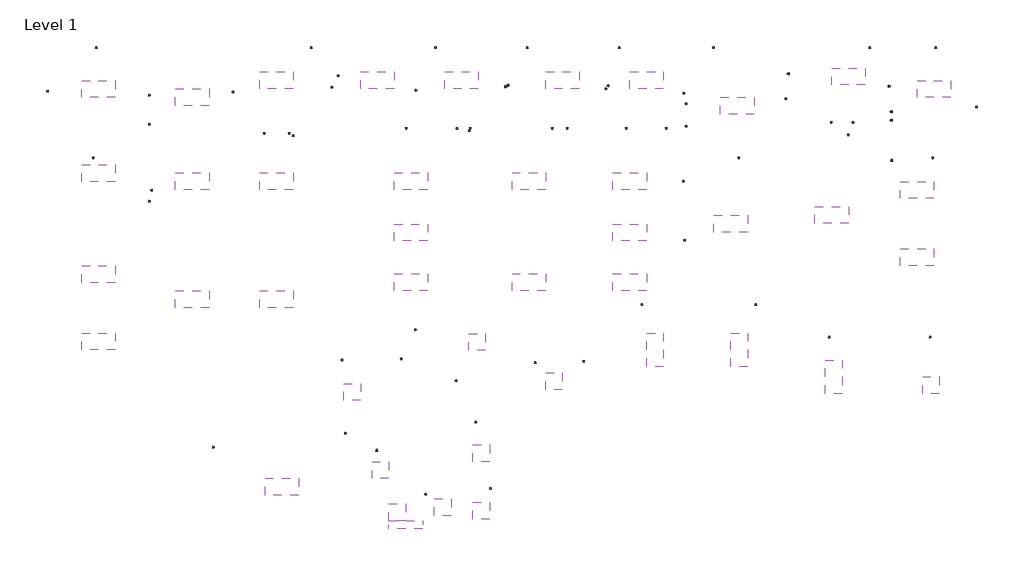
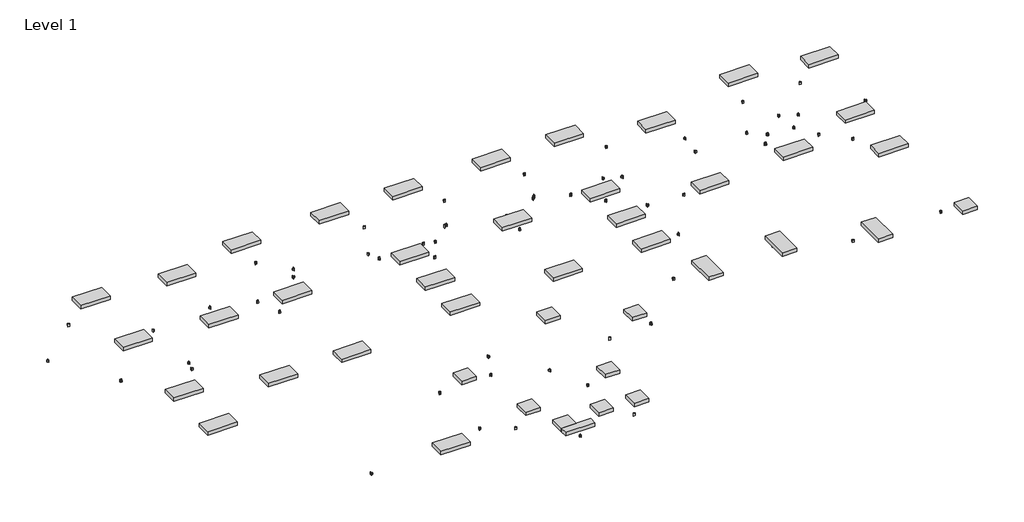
# One storey: 43 light fixtures, 33 proxies, 33 switching devices.
"""IFC4 building model written with IfcOpenShell, lengths in millimetres."""

from ifc_helpers import new_model, si_unit, origin, place, context, project, spatial, transform, mapped, element, save
from components import duplex_receptacle_standard_10251bba, troffer_corner_insert_1x4_2lamp_2a976431, troffer_corner_insert_2x2_2lamp_fc5c5a6f, troffer_corner_insert_2x4_2lamp_ce2b6327

model = new_model("IFC4")

# Units and contexts
model_context = context("Model", 3, world=origin())
ifc_project = project(units=[si_unit("LENGTHUNIT", "METRE", prefix="MILLI")], contexts=[model_context])

# Site, building, storey
site = spatial("IfcSite", under=ifc_project)
building = spatial("IfcBuilding", under=site)
storey = spatial("IfcBuildingStorey", under=building, Name="Level 1", Elevation=0.0)

# Proxies
placement = place(None, origin())
duplex_receptacle_standard_shape = duplex_receptacle_standard_10251bba(model_context)
element("IfcBuildingElementProxy", 1, Name="Duplex Receptacle : Standard", ObjectType="Duplex Receptacle : Standard", at=placement, inside=storey, context=model_context, shape_type="MappedRepresentation", body=[
    mapped(duplex_receptacle_standard_shape, transform((-26841.405561, 10083.9795737, 457.2), x_axis=(0.0, 1.0, 0.0), y_axis=(0.0, 0.0, 1.0), z_axis=(1.0, 0.0, 0.0))),
])
element("IfcBuildingElementProxy", 2, Name="Duplex Receptacle : Standard", ObjectType="Duplex Receptacle : Standard", at=placement, inside=storey, context=model_context, shape_type="MappedRepresentation", body=[
    mapped(duplex_receptacle_standard_shape, transform((-25204.9666385, 7694.2963778, 457.2), x_axis=(-1.0, 0.0, 0.0), y_axis=(0.0, 0.0, 1.0), z_axis=(0.0, 1.0, 0.0))),
])
element("IfcBuildingElementProxy", 3, Name="Duplex Receptacle : Standard", ObjectType="Duplex Receptacle : Standard", at=placement, inside=storey, context=model_context, shape_type="MappedRepresentation", body=[
    mapped(duplex_receptacle_standard_shape, transform((-23188.568061, 9940.7759008, 457.2), x_axis=(0.0, -1.0, 0.0), y_axis=(0.0, 0.0, 1.0), z_axis=(-1.0, 0.0, 0.0))),
])
element("IfcBuildingElementProxy", 4, Name="Duplex Receptacle : Standard", ObjectType="Duplex Receptacle : Standard", at=placement, inside=storey, context=model_context, shape_type="MappedRepresentation", body=[
    mapped(duplex_receptacle_standard_shape, transform((-25090.4037002, 11651.9338778, 457.2), x_axis=(1.0, 0.0, 0.0), y_axis=(0.0, 0.0, 1.0), z_axis=(0.0, -1.0, 0.0))),
])
element("IfcBuildingElementProxy", 5, Name="Duplex Receptacle : Standard", ObjectType="Duplex Receptacle : Standard", at=placement, inside=storey, context=model_context, shape_type="MappedRepresentation", body=[
    mapped(duplex_receptacle_standard_shape, transform((-20121.518061, 10059.969048, 457.2), x_axis=(0.0, 1.0, 0.0), y_axis=(0.0, 0.0, 1.0), z_axis=(1.0, 0.0, 0.0))),
])
element("IfcBuildingElementProxy", 6, Name="Duplex Receptacle : Standard", ObjectType="Duplex Receptacle : Standard", at=placement, inside=storey, context=model_context, shape_type="MappedRepresentation", body=[
    mapped(duplex_receptacle_standard_shape, transform((-18097.4089577, 8586.4713778, 457.2), x_axis=(-1.0, 0.0, 0.0), y_axis=(0.0, 0.0, 1.0), z_axis=(0.0, 1.0, 0.0))),
])
element("IfcBuildingElementProxy", 7, Name="Duplex Receptacle : Standard", ObjectType="Duplex Receptacle : Standard", at=placement, inside=storey, context=model_context, shape_type="MappedRepresentation", body=[
    mapped(duplex_receptacle_standard_shape, transform((-16586.155561, 10230.4172196, 457.2), x_axis=(0.0, -1.0, 0.0), y_axis=(0.0, 0.0, 1.0), z_axis=(-1.0, 0.0, 0.0))),
])
element("IfcBuildingElementProxy", 8, Name="Duplex Receptacle : Standard", ObjectType="Duplex Receptacle : Standard", at=placement, inside=storey, context=model_context, shape_type="MappedRepresentation", body=[
    mapped(duplex_receptacle_standard_shape, transform((-17301.9841568, 11651.9338778, 457.2), x_axis=(1.0, 0.0, 0.0), y_axis=(0.0, 0.0, 1.0), z_axis=(0.0, -1.0, 0.0))),
])
element("IfcBuildingElementProxy", 9, Name="Duplex Receptacle : Standard", ObjectType="Duplex Receptacle : Standard", at=placement, inside=storey, context=model_context, shape_type="MappedRepresentation", body=[
    mapped(duplex_receptacle_standard_shape, transform((-16309.930561, 10651.0789037, 457.2), x_axis=(0.0, 1.0, 0.0), y_axis=(0.0, 0.0, 1.0), z_axis=(1.0, 0.0, 0.0))),
])
element("IfcBuildingElementProxy", 10, Name="Duplex Receptacle : Standard", ObjectType="Duplex Receptacle : Standard", at=placement, inside=storey, context=model_context, shape_type="MappedRepresentation", body=[
    mapped(duplex_receptacle_standard_shape, transform((-13539.743061, 10124.0535866, 457.2), x_axis=(0.0, -1.0, 0.0), y_axis=(0.0, 0.0, 1.0), z_axis=(-1.0, 0.0, 0.0))),
])
element("IfcBuildingElementProxy", 11, Name="Duplex Receptacle : Standard", ObjectType="Duplex Receptacle : Standard", at=placement, inside=storey, context=model_context, shape_type="MappedRepresentation", body=[
    mapped(duplex_receptacle_standard_shape, transform((-12806.5245051, 11651.9338778, 457.2), x_axis=(1.0, 0.0, 0.0), y_axis=(0.0, 0.0, 1.0), z_axis=(0.0, -1.0, 0.0))),
])
element("IfcBuildingElementProxy", 12, Name="Duplex Receptacle : Standard", ObjectType="Duplex Receptacle : Standard", at=placement, inside=storey, context=model_context, shape_type="MappedRepresentation", body=[
    mapped(duplex_receptacle_standard_shape, transform((-10286.955561, 10256.7605197, 457.2), x_axis=(0.0, -1.0, 0.0), y_axis=(0.0, 0.0, 1.0), z_axis=(-1.0, 0.0, 0.0))),
])
element("IfcBuildingElementProxy", 13, Name="Duplex Receptacle : Standard", ObjectType="Duplex Receptacle : Standard", at=placement, inside=storey, context=model_context, shape_type="MappedRepresentation", body=[
    mapped(duplex_receptacle_standard_shape, transform((-11548.8226825, 8761.0963778, 457.2), x_axis=(-1.0, 0.0, 0.0), y_axis=(0.0, 0.0, 1.0), z_axis=(0.0, 1.0, 0.0))),
])
element("IfcBuildingElementProxy", 14, Name="Duplex Receptacle : Standard", ObjectType="Duplex Receptacle : Standard", at=placement, inside=storey, context=model_context, shape_type="MappedRepresentation", body=[
    mapped(duplex_receptacle_standard_shape, transform((-9478.3687644, 11651.9338778, 457.2), x_axis=(1.0, 0.0, 0.0), y_axis=(0.0, 0.0, 1.0), z_axis=(0.0, -1.0, 0.0))),
])
element("IfcBuildingElementProxy", 15, Name="Duplex Receptacle : Standard", ObjectType="Duplex Receptacle : Standard", at=placement, inside=storey, context=model_context, shape_type="MappedRepresentation", body=[
    mapped(duplex_receptacle_standard_shape, transform((-10163.130561, 10308.2801537, 457.2), x_axis=(0.0, 1.0, 0.0), y_axis=(0.0, 0.0, 1.0), z_axis=(1.0, 0.0, 0.0))),
])
element("IfcBuildingElementProxy", 16, Name="Duplex Receptacle : Standard", ObjectType="Duplex Receptacle : Standard", at=placement, inside=storey, context=model_context, shape_type="MappedRepresentation", body=[
    mapped(duplex_receptacle_standard_shape, transform((-8025.676875, 8761.0963778, 457.2), x_axis=(-1.0, 0.0, 0.0), y_axis=(0.0, 0.0, 1.0), z_axis=(0.0, 1.0, 0.0))),
])
element("IfcBuildingElementProxy", 17, Name="Duplex Receptacle : Standard", ObjectType="Duplex Receptacle : Standard", at=placement, inside=storey, context=model_context, shape_type="MappedRepresentation", body=[
    mapped(duplex_receptacle_standard_shape, transform((-6653.168061, 10183.4292353, 457.2), x_axis=(0.0, -1.0, 0.0), y_axis=(0.0, 0.0, 1.0), z_axis=(-1.0, 0.0, 0.0))),
])
element("IfcBuildingElementProxy", 18, Name="Duplex Receptacle : Standard", ObjectType="Duplex Receptacle : Standard", at=placement, inside=storey, context=model_context, shape_type="MappedRepresentation", body=[
    mapped(duplex_receptacle_standard_shape, transform((-6529.343061, 10292.780883, 457.2), x_axis=(0.0, 1.0, 0.0), y_axis=(0.0, 0.0, 1.0), z_axis=(1.0, 0.0, 0.0))),
])
element("IfcBuildingElementProxy", 19, Name="Duplex Receptacle : Standard", ObjectType="Duplex Receptacle : Standard", at=placement, inside=storey, context=model_context, shape_type="MappedRepresentation", body=[
    mapped(duplex_receptacle_standard_shape, transform((-3835.355561, 10013.3796213, 457.2), x_axis=(0.0, -1.0, 0.0), y_axis=(0.0, 0.0, 1.0), z_axis=(-1.0, 0.0, 0.0))),
])
element("IfcBuildingElementProxy", 20, Name="Duplex Receptacle : Standard", ObjectType="Duplex Receptacle : Standard", at=placement, inside=storey, context=model_context, shape_type="MappedRepresentation", body=[
    mapped(duplex_receptacle_standard_shape, transform((-4440.4941443, 8761.0963778, 457.2), x_axis=(-1.0, 0.0, 0.0), y_axis=(0.0, 0.0, 1.0), z_axis=(0.0, 1.0, 0.0))),
])
element("IfcBuildingElementProxy", 21, Name="Duplex Receptacle : Standard", ObjectType="Duplex Receptacle : Standard", at=placement, inside=storey, context=model_context, shape_type="MappedRepresentation", body=[
    mapped(duplex_receptacle_standard_shape, transform((-6144.9758606, 11651.9338778, 457.2), x_axis=(1.0, 0.0, 0.0), y_axis=(0.0, 0.0, 1.0), z_axis=(0.0, -1.0, 0.0))),
])
element("IfcBuildingElementProxy", 22, Name="Duplex Receptacle : Standard", ObjectType="Duplex Receptacle : Standard", at=placement, inside=storey, context=model_context, shape_type="MappedRepresentation", body=[
    mapped(duplex_receptacle_standard_shape, transform((-3711.530561, 9633.9383857, 457.2), x_axis=(0.0, 1.0, 0.0), y_axis=(0.0, 0.0, 1.0), z_axis=(1.0, 0.0, 0.0))),
])
element("IfcBuildingElementProxy", 23, Name="Duplex Receptacle : Standard", ObjectType="Duplex Receptacle : Standard", at=placement, inside=storey, context=model_context, shape_type="MappedRepresentation", body=[
    mapped(duplex_receptacle_standard_shape, transform((-1821.0264733, 7687.9463778, 457.2), x_axis=(-1.0, 0.0, 0.0), y_axis=(0.0, 0.0, 1.0), z_axis=(0.0, 1.0, 0.0))),
])
element("IfcBuildingElementProxy", 24, Name="Duplex Receptacle : Standard", ObjectType="Duplex Receptacle : Standard", at=placement, inside=storey, context=model_context, shape_type="MappedRepresentation", body=[
    mapped(duplex_receptacle_standard_shape, transform((-2735.7649944, 11651.9338778, 457.2), x_axis=(1.0, 0.0, 0.0), y_axis=(0.0, 0.0, 1.0), z_axis=(0.0, -1.0, 0.0))),
])
element("IfcBuildingElementProxy", 25, Name="Duplex Receptacle : Standard", ObjectType="Duplex Receptacle : Standard", at=placement, inside=storey, context=model_context, shape_type="MappedRepresentation", body=[
    mapped(duplex_receptacle_standard_shape, transform((-128.543061, 9808.1742944, 457.2), x_axis=(0.0, -1.0, 0.0), y_axis=(0.0, 0.0, 1.0), z_axis=(-1.0, 0.0, 0.0))),
])
element("IfcBuildingElementProxy", 26, Name="Duplex Receptacle : Standard", ObjectType="Duplex Receptacle : Standard", at=placement, inside=storey, context=model_context, shape_type="MappedRepresentation", body=[
    mapped(duplex_receptacle_standard_shape, transform((2317.0763601, 8976.9963778, 457.2), x_axis=(-1.0, 0.0, 0.0), y_axis=(0.0, 0.0, 1.0), z_axis=(0.0, 1.0, 0.0))),
])
element("IfcBuildingElementProxy", 27, Name="Duplex Receptacle : Standard", ObjectType="Duplex Receptacle : Standard", at=placement, inside=storey, context=model_context, shape_type="MappedRepresentation", body=[
    mapped(duplex_receptacle_standard_shape, transform((3605.256939, 10265.543555, 457.2), x_axis=(0.0, -1.0, 0.0), y_axis=(0.0, 0.0, 1.0), z_axis=(-1.0, 0.0, 0.0))),
])
element("IfcBuildingElementProxy", 28, Name="Duplex Receptacle : Standard", ObjectType="Duplex Receptacle : Standard", at=placement, inside=storey, context=model_context, shape_type="MappedRepresentation", body=[
    mapped(duplex_receptacle_standard_shape, transform((2926.9020408, 11651.9338778, 457.2), x_axis=(1.0, 0.0, 0.0), y_axis=(0.0, 0.0, 1.0), z_axis=(0.0, -1.0, 0.0))),
])
element("IfcBuildingElementProxy", 29, Name="Duplex Receptacle : Standard", ObjectType="Duplex Receptacle : Standard", at=placement, inside=storey, context=model_context, shape_type="MappedRepresentation", body=[
    mapped(duplex_receptacle_standard_shape, transform((-4.718061, 10722.9128155, 457.2), x_axis=(0.0, 1.0, 0.0), y_axis=(0.0, 0.0, 1.0), z_axis=(1.0, 0.0, 0.0))),
])
element("IfcBuildingElementProxy", 30, Name="Duplex Receptacle : Standard", ObjectType="Duplex Receptacle : Standard", at=placement, inside=storey, context=model_context, shape_type="MappedRepresentation", body=[
    mapped(duplex_receptacle_standard_shape, transform((5310.8304139, 11651.9338778, 457.2), x_axis=(1.0, 0.0, 0.0), y_axis=(0.0, 0.0, 1.0), z_axis=(0.0, -1.0, 0.0))),
])
element("IfcBuildingElementProxy", 31, Name="Duplex Receptacle : Standard", ObjectType="Duplex Receptacle : Standard", at=placement, inside=storey, context=model_context, shape_type="MappedRepresentation", body=[
    mapped(duplex_receptacle_standard_shape, transform((3729.081939, 9342.2021359, 457.2), x_axis=(0.0, 1.0, 0.0), y_axis=(0.0, 0.0, 1.0), z_axis=(1.0, 0.0, 0.0))),
])
element("IfcBuildingElementProxy", 32, Name="Duplex Receptacle : Standard", ObjectType="Duplex Receptacle : Standard", at=placement, inside=storey, context=model_context, shape_type="MappedRepresentation", body=[
    mapped(duplex_receptacle_standard_shape, transform((5201.9329709, 7687.9463778, 457.2), x_axis=(-1.0, 0.0, 0.0), y_axis=(0.0, 0.0, 1.0), z_axis=(0.0, 1.0, 0.0))),
])
element("IfcBuildingElementProxy", 33, Name="Duplex Receptacle : Standard", ObjectType="Duplex Receptacle : Standard", at=placement, inside=storey, context=model_context, shape_type="MappedRepresentation", body=[
    mapped(duplex_receptacle_standard_shape, transform((6772.319439, 9516.4380447, 457.2), x_axis=(0.0, -1.0, 0.0), y_axis=(0.0, 0.0, 1.0), z_axis=(-1.0, 0.0, 0.0))),
])

# Light fixtures
troffer_corner_insert_1x4_2lamp_shape = troffer_corner_insert_1x4_2lamp_2a976431(model_context)
element("IfcLightFixture", 34, ObjectType="Troffer Corner Insert : 1x4 2Lamp", at=placement, inside=storey, context=model_context, shape_type="MappedRepresentation", body=[
    mapped(troffer_corner_insert_1x4_2lamp_shape, transform((-13885.818061, -5617.6848722, 0.0), x_axis=(1.0, 0.0, 0.0), y_axis=(0.0, 1.0, 0.0), z_axis=(0.0, 0.0, 1.0))),
])
troffer_corner_insert_2x2_2lamp_shape = troffer_corner_insert_2x2_2lamp_fc5c5a6f(model_context)
element("IfcLightFixture", 35, ObjectType="Troffer Corner Insert : 2x2 2Lamp", at=placement, inside=storey, context=model_context, shape_type="MappedRepresentation", body=[
    mapped(troffer_corner_insert_2x2_2lamp_shape, transform((-11301.6126222, 1001.5119405, 0.0), x_axis=(0.0, 1.0000000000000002, 0.0), y_axis=(-1.0000000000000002, 0.0, 0.0), z_axis=(0.0, 0.0, 1.0))),
])
element("IfcLightFixture", 36, ObjectType="Troffer Corner Insert : 2x2 2Lamp", at=placement, inside=storey, context=model_context, shape_type="MappedRepresentation", body=[
    mapped(troffer_corner_insert_2x2_2lamp_shape, transform((-8510.543061, -417.0348722, 0.0), x_axis=(0.0, 1.0000000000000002, 0.0), y_axis=(-1.0000000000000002, 0.0, 0.0), z_axis=(0.0, 0.0, 1.0))),
])
element("IfcLightFixture", 37, ObjectType="Troffer Corner Insert : 2x2 2Lamp", at=placement, inside=storey, context=model_context, shape_type="MappedRepresentation", body=[
    mapped(troffer_corner_insert_2x2_2lamp_shape, transform((5142.750689, -564.6723722, 0.0), x_axis=(0.0, 1.0000000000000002, 0.0), y_axis=(-1.0000000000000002, 0.0, 0.0), z_axis=(0.0, 0.0, 1.0))),
])
element("IfcLightFixture", 38, ObjectType="Troffer Corner Insert : 2x2 2Lamp", at=placement, inside=storey, context=model_context, shape_type="MappedRepresentation", body=[
    mapped(troffer_corner_insert_2x2_2lamp_shape, transform((-14800.218061, -3636.4848722, 0.0), x_axis=(1.0, 0.0, 0.0), y_axis=(0.0, 1.0, 0.0), z_axis=(0.0, 0.0, 1.0))),
])
element("IfcLightFixture", 39, ObjectType="Troffer Corner Insert : 2x2 2Lamp", at=placement, inside=storey, context=model_context, shape_type="MappedRepresentation", body=[
    mapped(troffer_corner_insert_2x2_2lamp_shape, transform((-11142.618061, -3026.8848722, 0.0), x_axis=(1.0, 0.0, 0.0), y_axis=(0.0, 1.0, 0.0), z_axis=(0.0, 0.0, 1.0))),
])
element("IfcLightFixture", 40, ObjectType="Troffer Corner Insert : 2x2 2Lamp", at=placement, inside=storey, context=model_context, shape_type="MappedRepresentation", body=[
    mapped(troffer_corner_insert_2x2_2lamp_shape, transform((-14190.618061, -5160.4848722, 0.0), x_axis=(1.0, 0.0, 0.0), y_axis=(0.0, 1.0, 0.0), z_axis=(0.0, 0.0, 1.0))),
])
element("IfcLightFixture", 41, ObjectType="Troffer Corner Insert : 2x2 2Lamp", at=placement, inside=storey, context=model_context, shape_type="MappedRepresentation", body=[
    mapped(troffer_corner_insert_2x2_2lamp_shape, transform((-12548.6624118, -4987.9083793, 0.0), x_axis=(1.0, 0.0, 0.0), y_axis=(0.0, 1.0, 0.0), z_axis=(0.0, 0.0, 1.0))),
])
element("IfcLightFixture", 42, ObjectType="Troffer Corner Insert : 2x2 2Lamp", at=placement, inside=storey, context=model_context, shape_type="MappedRepresentation", body=[
    mapped(troffer_corner_insert_2x2_2lamp_shape, transform((-11142.618061, -5110.9213204, 0.0), x_axis=(1.0, 0.0, 0.0), y_axis=(0.0, 1.0, 0.0), z_axis=(0.0, 0.0, 1.0))),
])
element("IfcLightFixture", 43, ObjectType="Troffer Corner Insert : 2x2 3Lamp", at=placement, inside=storey, context=model_context, shape_type="MappedRepresentation", body=[
    mapped(troffer_corner_insert_2x2_2lamp_shape, transform((-15825.743061, -806.7661222, 0.0), x_axis=(1.0, 0.0, 0.0), y_axis=(0.0, 1.0, 0.0), z_axis=(0.0, 0.0, 1.0))),
])
troffer_corner_insert_2x4_2lamp_shape = troffer_corner_insert_2x4_2lamp_ce2b6327(model_context)
element("IfcLightFixture", 44, ObjectType="Troffer Corner Insert : 2x4 2Lamp", at=placement, inside=storey, context=model_context, shape_type="MappedRepresentation", body=[
    mapped(troffer_corner_insert_2x4_2lamp_shape, transform((-5157.743061, 10481.1526278, 0.0), x_axis=(1.0, 0.0, 0.0), y_axis=(0.0, 1.0, 0.0), z_axis=(0.0, 0.0, 1.0))),
])
element("IfcLightFixture", 45, ObjectType="Troffer Corner Insert : 2x4 2Lamp", at=placement, inside=storey, context=model_context, shape_type="MappedRepresentation", body=[
    mapped(troffer_corner_insert_2x4_2lamp_shape, transform((-14911.343061, 10481.1526278, 0.0), x_axis=(1.0, 0.0, 0.0), y_axis=(0.0, 1.0, 0.0), z_axis=(0.0, 0.0, 1.0))),
])
element("IfcLightFixture", 46, ObjectType="Troffer Corner Insert : 2x4 3Lamp", at=placement, inside=storey, context=model_context, shape_type="MappedRepresentation", body=[
    mapped(troffer_corner_insert_2x4_2lamp_shape, transform((-25014.986811, 10166.0338778, 0.0), x_axis=(1.0, 0.0, 0.0), y_axis=(0.0, 1.0, 0.0), z_axis=(0.0, 0.0, 1.0))),
])
element("IfcLightFixture", 47, ObjectType="Troffer Corner Insert : 2x4 3Lamp", at=placement, inside=storey, context=model_context, shape_type="MappedRepresentation", body=[
    mapped(troffer_corner_insert_2x4_2lamp_shape, transform((-18568.943061, 10481.1526278, 0.0), x_axis=(1.0, 0.0, 0.0), y_axis=(0.0, 1.0, 0.0), z_axis=(0.0, 0.0, 1.0))),
])
element("IfcLightFixture", 48, ObjectType="Troffer Corner Insert : 2x4 3Lamp", at=placement, inside=storey, context=model_context, shape_type="MappedRepresentation", body=[
    mapped(troffer_corner_insert_2x4_2lamp_shape, transform((-11863.343061, 10481.1526278, 0.0), x_axis=(1.0, 0.0, 0.0), y_axis=(0.0, 1.0, 0.0), z_axis=(0.0, 0.0, 1.0))),
])
element("IfcLightFixture", 49, ObjectType="Troffer Corner Insert : 2x4 3Lamp", at=placement, inside=storey, context=model_context, shape_type="MappedRepresentation", body=[
    mapped(troffer_corner_insert_2x4_2lamp_shape, transform((-8205.743061, 10481.1526278, 0.0), x_axis=(1.0, 0.0, 0.0), y_axis=(0.0, 1.0, 0.0), z_axis=(0.0, 0.0, 1.0))),
])
element("IfcLightFixture", 50, ObjectType="Troffer Corner Insert : 2x4 3Lamp", at=placement, inside=storey, context=model_context, shape_type="MappedRepresentation", body=[
    mapped(troffer_corner_insert_2x4_2lamp_shape, transform((-1874.793061, 9556.4338778, 0.0), x_axis=(1.0, 0.0, 0.0), y_axis=(0.0, 1.0, 0.0), z_axis=(0.0, 0.0, 1.0))),
])
element("IfcLightFixture", 51, ObjectType="Troffer Corner Insert : 2x4 3Lamp", at=placement, inside=storey, context=model_context, shape_type="MappedRepresentation", body=[
    mapped(troffer_corner_insert_2x4_2lamp_shape, transform((2157.456939, 10619.2651278, 0.0), x_axis=(1.0, 0.0, 0.0), y_axis=(0.0, 1.0, 0.0), z_axis=(0.0, 0.0, 1.0))),
])
element("IfcLightFixture", 52, ObjectType="Troffer Corner Insert : 2x4 3Lamp", at=placement, inside=storey, context=model_context, shape_type="MappedRepresentation", body=[
    mapped(troffer_corner_insert_2x4_2lamp_shape, transform((5250.700689, 10166.0338778, 0.0), x_axis=(1.0, 0.0, 0.0), y_axis=(0.0, 1.0, 0.0), z_axis=(0.0, 0.0, 1.0))),
])
element("IfcLightFixture", 53, ObjectType="Troffer Corner Insert : 2x4 3Lamp", at=placement, inside=storey, context=model_context, shape_type="MappedRepresentation", body=[
    mapped(troffer_corner_insert_2x4_2lamp_shape, transform((-25014.986811, 3460.4338778, 0.0), x_axis=(1.0, 0.0, 0.0), y_axis=(0.0, 1.0, 0.0), z_axis=(0.0, 0.0, 1.0))),
])
element("IfcLightFixture", 54, ObjectType="Troffer Corner Insert : 2x4 3Lamp", at=placement, inside=storey, context=model_context, shape_type="MappedRepresentation", body=[
    mapped(troffer_corner_insert_2x4_2lamp_shape, transform((-25014.986811, 1022.0338778, 0.0), x_axis=(1.0, 0.0, 0.0), y_axis=(0.0, 1.0, 0.0), z_axis=(0.0, 0.0, 1.0))),
])
element("IfcLightFixture", 55, ObjectType="Troffer Corner Insert : 2x4 3Lamp", at=placement, inside=storey, context=model_context, shape_type="MappedRepresentation", body=[
    mapped(troffer_corner_insert_2x4_2lamp_shape, transform((-21616.943061, 6823.5526278, 0.0), x_axis=(1.0, 0.0, 0.0), y_axis=(0.0, 1.0, 0.0), z_axis=(0.0, 0.0, 1.0))),
])
element("IfcLightFixture", 56, ObjectType="Troffer Corner Insert : 2x4 3Lamp", at=placement, inside=storey, context=model_context, shape_type="MappedRepresentation", body=[
    mapped(troffer_corner_insert_2x4_2lamp_shape, transform((-2109.743061, 5289.2338778, 0.0), x_axis=(1.0, 0.0, 0.0), y_axis=(0.0, 1.0, 0.0), z_axis=(0.0, 0.0, 1.0))),
])
element("IfcLightFixture", 57, ObjectType="Troffer Corner Insert : 2x4 3Lamp", at=placement, inside=storey, context=model_context, shape_type="MappedRepresentation", body=[
    mapped(troffer_corner_insert_2x4_2lamp_shape, transform((1547.856939, 5604.3526278, 0.0), x_axis=(1.0, 0.0, 0.0), y_axis=(0.0, 1.0, 0.0), z_axis=(0.0, 0.0, 1.0))),
])
element("IfcLightFixture", 58, ObjectType="Troffer Corner Insert : 2x4 3Lamp", at=placement, inside=storey, context=model_context, shape_type="MappedRepresentation", body=[
    mapped(troffer_corner_insert_2x4_2lamp_shape, transform((4641.100689, 6508.4338778, 0.0), x_axis=(1.0, 0.0, 0.0), y_axis=(0.0, 1.0, 0.0), z_axis=(0.0, 0.0, 1.0))),
])
element("IfcLightFixture", 59, ObjectType="Troffer Corner Insert : 2x4 3Lamp", at=placement, inside=storey, context=model_context, shape_type="MappedRepresentation", body=[
    mapped(troffer_corner_insert_2x4_2lamp_shape, transform((4641.100689, 4070.0338778, 0.0), x_axis=(1.0, 0.0, 0.0), y_axis=(0.0, 1.0, 0.0), z_axis=(0.0, 0.0, 1.0))),
])
element("IfcLightFixture", 60, ObjectType="Troffer Corner Insert : 2x4 3Lamp", at=placement, inside=storey, context=model_context, shape_type="MappedRepresentation", body=[
    mapped(troffer_corner_insert_2x4_2lamp_shape, transform((-25014.986811, 7118.0338778, 0.0), x_axis=(1.0, 0.0, 0.0), y_axis=(0.0, 1.0, 0.0), z_axis=(0.0, 0.0, 1.0))),
])
element("IfcLightFixture", 61, ObjectType="Troffer Corner Insert : 2x4 3Lamp", at=placement, inside=storey, context=model_context, shape_type="MappedRepresentation", body=[
    mapped(troffer_corner_insert_2x4_2lamp_shape, transform((-4852.943061, 717.2338778, 0.0), x_axis=(0.0, 1.0000000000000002, 0.0), y_axis=(-1.0000000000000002, 0.0, 0.0), z_axis=(0.0, 0.0, 1.0))),
])
element("IfcLightFixture", 62, ObjectType="Troffer Corner Insert : 2x4 3Lamp", at=placement, inside=storey, context=model_context, shape_type="MappedRepresentation", body=[
    mapped(troffer_corner_insert_2x4_2lamp_shape, transform((-1804.943061, 717.2338778, 0.0), x_axis=(0.0, 1.0000000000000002, 0.0), y_axis=(-1.0000000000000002, 0.0, 0.0), z_axis=(0.0, 0.0, 1.0))),
])
element("IfcLightFixture", 63, ObjectType="Troffer Corner Insert : 2x4 3Lamp", at=placement, inside=storey, context=model_context, shape_type="MappedRepresentation", body=[
    mapped(troffer_corner_insert_2x4_2lamp_shape, transform((1623.263189, -259.8723722, 0.0), x_axis=(0.0, 1.0000000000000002, 0.0), y_axis=(-1.0000000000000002, 0.0, 0.0), z_axis=(0.0, 0.0, 1.0))),
])
element("IfcLightFixture", 64, ObjectType="Troffer Corner Insert : 2x4 3Lamp", at=placement, inside=storey, context=model_context, shape_type="MappedRepresentation", body=[
    mapped(troffer_corner_insert_2x4_2lamp_shape, transform((-18371.299311, -4246.0848722, 0.0), x_axis=(1.0, 0.0, 0.0), y_axis=(0.0, 1.0, 0.0), z_axis=(0.0, 0.0, 1.0))),
])
element("IfcLightFixture", 65, ObjectType="Troffer Corner Insert : 2x4 3Lamp", at=placement, inside=storey, context=model_context, shape_type="MappedRepresentation", body=[
    mapped(troffer_corner_insert_2x4_2lamp_shape, transform((-21616.943061, 9871.5526278, 0.0), x_axis=(1.0, 0.0, 0.0), y_axis=(0.0, 1.0, 0.0), z_axis=(0.0, 0.0, 1.0))),
])
element("IfcLightFixture", 66, ObjectType="Troffer Corner Insert : 2x4 4Lamp", at=placement, inside=storey, context=model_context, shape_type="MappedRepresentation", body=[
    mapped(troffer_corner_insert_2x4_2lamp_shape, transform((-18568.943061, 6823.5526278, 0.0), x_axis=(1.0, 0.0, 0.0), y_axis=(0.0, 1.0, 0.0), z_axis=(0.0, 0.0, 1.0))),
])
element("IfcLightFixture", 67, ObjectType="Troffer Corner Insert : 2x4 4Lamp", at=placement, inside=storey, context=model_context, shape_type="MappedRepresentation", body=[
    mapped(troffer_corner_insert_2x4_2lamp_shape, transform((-13692.143061, 6823.5526278, 0.0), x_axis=(1.0, 0.0, 0.0), y_axis=(0.0, 1.0, 0.0), z_axis=(0.0, 0.0, 1.0))),
])
element("IfcLightFixture", 68, ObjectType="Troffer Corner Insert : 2x4 4Lamp", at=placement, inside=storey, context=model_context, shape_type="MappedRepresentation", body=[
    mapped(troffer_corner_insert_2x4_2lamp_shape, transform((-9424.943061, 6823.5526278, 0.0), x_axis=(1.0, 0.0, 0.0), y_axis=(0.0, 1.0, 0.0), z_axis=(0.0, 0.0, 1.0))),
])
element("IfcLightFixture", 69, ObjectType="Troffer Corner Insert : 2x4 4Lamp", at=placement, inside=storey, context=model_context, shape_type="MappedRepresentation", body=[
    mapped(troffer_corner_insert_2x4_2lamp_shape, transform((-18568.943061, 2556.3526278, 0.0), x_axis=(1.0, 0.0, 0.0), y_axis=(0.0, 1.0, 0.0), z_axis=(0.0, 0.0, 1.0))),
])
element("IfcLightFixture", 70, ObjectType="Troffer Corner Insert : 2x4 4Lamp", at=placement, inside=storey, context=model_context, shape_type="MappedRepresentation", body=[
    mapped(troffer_corner_insert_2x4_2lamp_shape, transform((-13692.143061, 3165.9526278, 0.0), x_axis=(1.0, 0.0, 0.0), y_axis=(0.0, 1.0, 0.0), z_axis=(0.0, 0.0, 1.0))),
])
element("IfcLightFixture", 71, ObjectType="Troffer Corner Insert : 2x4 4Lamp", at=placement, inside=storey, context=model_context, shape_type="MappedRepresentation", body=[
    mapped(troffer_corner_insert_2x4_2lamp_shape, transform((-9424.943061, 3165.9526278, 0.0), x_axis=(1.0, 0.0, 0.0), y_axis=(0.0, 1.0, 0.0), z_axis=(0.0, 0.0, 1.0))),
])
element("IfcLightFixture", 72, ObjectType="Troffer Corner Insert : 2x4 4Lamp", at=placement, inside=storey, context=model_context, shape_type="MappedRepresentation", body=[
    mapped(troffer_corner_insert_2x4_2lamp_shape, transform((-5767.343061, 6823.5526278, 0.0), x_axis=(1.0, 0.0, 0.0), y_axis=(0.0, 1.0, 0.0), z_axis=(0.0, 0.0, 1.0))),
])
element("IfcLightFixture", 73, ObjectType="Troffer Corner Insert : 2x4 4Lamp", at=placement, inside=storey, context=model_context, shape_type="MappedRepresentation", body=[
    mapped(troffer_corner_insert_2x4_2lamp_shape, transform((-5767.343061, 3165.9526278, 0.0), x_axis=(1.0, 0.0, 0.0), y_axis=(0.0, 1.0, 0.0), z_axis=(0.0, 0.0, 1.0))),
])
element("IfcLightFixture", 74, ObjectType="Troffer Corner Insert : 2x4 4Lamp", at=placement, inside=storey, context=model_context, shape_type="MappedRepresentation", body=[
    mapped(troffer_corner_insert_2x4_2lamp_shape, transform((-13692.143061, 4971.9080644, 0.0), x_axis=(1.0, 0.0, 0.0), y_axis=(0.0, 1.0, 0.0), z_axis=(0.0, 0.0, 1.0))),
])
element("IfcLightFixture", 75, ObjectType="Troffer Corner Insert : 2x4 4Lamp", at=placement, inside=storey, context=model_context, shape_type="MappedRepresentation", body=[
    mapped(troffer_corner_insert_2x4_2lamp_shape, transform((-5767.343061, 4971.9080644, 0.0), x_axis=(1.0, 0.0, 0.0), y_axis=(0.0, 1.0, 0.0), z_axis=(0.0, 0.0, 1.0))),
])
element("IfcLightFixture", 76, ObjectType="Troffer Corner Insert : 2x4 4Lamp", at=placement, inside=storey, context=model_context, shape_type="MappedRepresentation", body=[
    mapped(troffer_corner_insert_2x4_2lamp_shape, transform((-21616.943061, 2556.3526278, 0.0), x_axis=(1.0, 0.0, 0.0), y_axis=(0.0, 1.0, 0.0), z_axis=(0.0, 0.0, 1.0))),
])

# Switching devices
element("IfcSwitchingDevice", 77, ObjectType="Lighting Switches : Single Pole", at=placement, inside=storey, context=model_context, shape_type="MappedRepresentation", body=[
    mapped(duplex_receptacle_standard_shape, transform((-23188.568061, 8894.146378, 1219.2), x_axis=(0.0, -1.0, 0.0), y_axis=(0.0, 0.0, 1.0), z_axis=(-1.0, 0.0, 0.0))),
])
element("IfcSwitchingDevice", 78, ObjectType="Lighting Switches : Single Pole", at=placement, inside=storey, context=model_context, shape_type="MappedRepresentation", body=[
    mapped(duplex_receptacle_standard_shape, transform((-19012.3138856, 8586.4713778, 1219.2), x_axis=(-1.0, 0.0, 0.0), y_axis=(0.0, 0.0, 1.0), z_axis=(0.0, 1.0, 0.0))),
])
element("IfcSwitchingDevice", 79, ObjectType="Lighting Switches : Single Pole", at=placement, inside=storey, context=model_context, shape_type="MappedRepresentation", body=[
    mapped(duplex_receptacle_standard_shape, transform((-13866.1055563, 8761.0963778, 1219.2), x_axis=(-1.0, 0.0, 0.0), y_axis=(0.0, 0.0, 1.0), z_axis=(0.0, 1.0, 0.0))),
])
element("IfcSwitchingDevice", 80, ObjectType="Lighting Switches : Single Pole", at=placement, inside=storey, context=model_context, shape_type="MappedRepresentation", body=[
    mapped(duplex_receptacle_standard_shape, transform((-12025.9587848, 8761.0963778, 1219.2), x_axis=(-1.0, 0.0, 0.0), y_axis=(0.0, 0.0, 1.0), z_axis=(0.0, 1.0, 0.0))),
])
element("IfcSwitchingDevice", 81, ObjectType="Lighting Switches : Single Pole", at=placement, inside=storey, context=model_context, shape_type="MappedRepresentation", body=[
    mapped(duplex_receptacle_standard_shape, transform((-8571.8718333, 8761.0963778, 1219.2), x_axis=(-1.0, 0.0, 0.0), y_axis=(0.0, 0.0, 1.0), z_axis=(0.0, 1.0, 0.0))),
])
element("IfcSwitchingDevice", 82, ObjectType="Lighting Switches : Single Pole", at=placement, inside=storey, context=model_context, shape_type="MappedRepresentation", body=[
    mapped(duplex_receptacle_standard_shape, transform((-5893.0563899, 8761.0963778, 1219.2), x_axis=(-1.0, 0.0, 0.0), y_axis=(0.0, 0.0, 1.0), z_axis=(0.0, 1.0, 0.0))),
])
element("IfcSwitchingDevice", 83, ObjectType="Lighting Switches : Single Pole", at=placement, inside=storey, context=model_context, shape_type="MappedRepresentation", body=[
    mapped(duplex_receptacle_standard_shape, transform((-3711.530561, 8818.5488233, 1219.2), x_axis=(0.0, 1.0, 0.0), y_axis=(0.0, 0.0, 1.0), z_axis=(1.0, 0.0, 0.0))),
])
element("IfcSwitchingDevice", 84, ObjectType="Lighting Switches : Single Pole", at=placement, inside=storey, context=model_context, shape_type="MappedRepresentation", body=[
    mapped(duplex_receptacle_standard_shape, transform((1533.3262844, 8976.9963778, 1219.2), x_axis=(-1.0, 0.0, 0.0), y_axis=(0.0, 0.0, 1.0), z_axis=(0.0, 1.0, 0.0))),
])
element("IfcSwitchingDevice", 85, ObjectType="Lighting Switches : Single Pole", at=placement, inside=storey, context=model_context, shape_type="MappedRepresentation", body=[
    mapped(duplex_receptacle_standard_shape, transform((3729.081939, 9028.5867447, 1219.2), x_axis=(0.0, 1.0, 0.0), y_axis=(0.0, 0.0, 1.0), z_axis=(1.0, 0.0, 0.0))),
])
element("IfcSwitchingDevice", 86, ObjectType="Lighting Switches : Single Pole", at=placement, inside=storey, context=model_context, shape_type="MappedRepresentation", body=[
    mapped(duplex_receptacle_standard_shape, transform((-23064.743061, 6493.1604088, 1219.2), x_axis=(0.0, 1.0, 0.0), y_axis=(0.0, 0.0, 1.0), z_axis=(1.0, 0.0, 0.0))),
])
element("IfcSwitchingDevice", 87, ObjectType="Lighting Switches : Single Pole", at=placement, inside=storey, context=model_context, shape_type="MappedRepresentation", body=[
    mapped(duplex_receptacle_standard_shape, transform((-17957.9151589, 8462.6463778, 1219.2), x_axis=(1.0, 0.0, 0.0), y_axis=(0.0, 0.0, 1.0), z_axis=(0.0, -1.0, 0.0))),
])
element("IfcSwitchingDevice", 88, ObjectType="Lighting Switches : Single Pole", at=placement, inside=storey, context=model_context, shape_type="MappedRepresentation", body=[
    mapped(duplex_receptacle_standard_shape, transform((-11587.8612928, 8637.2713778, 1219.2), x_axis=(1.0, 0.0, 0.0), y_axis=(0.0, 0.0, 1.0), z_axis=(0.0, -1.0, 0.0))),
])
element("IfcSwitchingDevice", 89, ObjectType="Lighting Switches : Single Pole", at=placement, inside=storey, context=model_context, shape_type="MappedRepresentation", body=[
    mapped(duplex_receptacle_standard_shape, transform((-3843.293061, 6821.285262, 1219.2), x_axis=(0.0, -1.0, 0.0), y_axis=(0.0, 0.0, 1.0), z_axis=(-1.0, 0.0, 0.0))),
])
element("IfcSwitchingDevice", 90, ObjectType="Lighting Switches : Single Pole", at=placement, inside=storey, context=model_context, shape_type="MappedRepresentation", body=[
    mapped(duplex_receptacle_standard_shape, transform((-13555.618061, 1442.1287573, 1219.2), x_axis=(0.0, -1.0, 0.0), y_axis=(0.0, 0.0, 1.0), z_axis=(-1.0, 0.0, 0.0))),
])
element("IfcSwitchingDevice", 91, ObjectType="Lighting Switches : Single Pole", at=placement, inside=storey, context=model_context, shape_type="MappedRepresentation", body=[
    mapped(duplex_receptacle_standard_shape, transform((-16192.3463473, 331.4713778, 1219.2), x_axis=(1.0, 0.0, 0.0), y_axis=(0.0, 0.0, 1.0), z_axis=(0.0, -1.0, 0.0))),
])
element("IfcSwitchingDevice", 92, ObjectType="Lighting Switches : Single Pole", at=placement, inside=storey, context=model_context, shape_type="MappedRepresentation", body=[
    mapped(duplex_receptacle_standard_shape, transform((-12042.730561, -393.9030883, 1219.2), x_axis=(0.0, 1.0, 0.0), y_axis=(0.0, 0.0, 1.0), z_axis=(1.0, 0.0, 0.0))),
])
element("IfcSwitchingDevice", 93, ObjectType="Lighting Switches : Single Pole", at=placement, inside=storey, context=model_context, shape_type="MappedRepresentation", body=[
    mapped(duplex_receptacle_standard_shape, transform((-9193.2259338, 239.3963778, 1219.2), x_axis=(1.0, 0.0, 0.0), y_axis=(0.0, 0.0, 1.0), z_axis=(0.0, -1.0, 0.0))),
])
element("IfcSwitchingDevice", 94, ObjectType="Lighting Switches : Single Pole", at=placement, inside=storey, context=model_context, shape_type="MappedRepresentation", body=[
    mapped(duplex_receptacle_standard_shape, transform((-5326.6398293, 2338.0713778, 1219.2), x_axis=(1.0, 0.0, 0.0), y_axis=(0.0, 0.0, 1.0), z_axis=(0.0, -1.0, 0.0))),
])
element("IfcSwitchingDevice", 95, ObjectType="Lighting Switches : Single Pole", at=placement, inside=storey, context=model_context, shape_type="MappedRepresentation", body=[
    mapped(duplex_receptacle_standard_shape, transform((-1200.8869492, 2338.0713778, 1219.2), x_axis=(1.0, 0.0, 0.0), y_axis=(0.0, 0.0, 1.0), z_axis=(0.0, -1.0, 0.0))),
])
element("IfcSwitchingDevice", 96, ObjectType="Lighting Switches : Single Pole", at=placement, inside=storey, context=model_context, shape_type="MappedRepresentation", body=[
    mapped(duplex_receptacle_standard_shape, transform((1456.1260699, 1163.3213778, 1219.2), x_axis=(1.0, 0.0, 0.0), y_axis=(0.0, 0.0, 1.0), z_axis=(0.0, -1.0, 0.0))),
])
element("IfcSwitchingDevice", 97, ObjectType="Lighting Switches : Single Pole", at=placement, inside=storey, context=model_context, shape_type="MappedRepresentation", body=[
    mapped(duplex_receptacle_standard_shape, transform((3728.5813487, 7564.1213778, 1219.2), x_axis=(1.0, 0.0, 0.0), y_axis=(0.0, 0.0, 1.0), z_axis=(0.0, -1.0, 0.0))),
])
element("IfcSwitchingDevice", 98, ObjectType="Lighting Switches : Single Pole", at=placement, inside=storey, context=model_context, shape_type="MappedRepresentation", body=[
    mapped(duplex_receptacle_standard_shape, transform((5108.5112615, 1163.3213778, 1219.2), x_axis=(1.0, 0.0, 0.0), y_axis=(0.0, 0.0, 1.0), z_axis=(0.0, -1.0, 0.0))),
])
element("IfcSwitchingDevice", 99, ObjectType="Lighting Switches : Single Pole", at=placement, inside=storey, context=model_context, shape_type="MappedRepresentation", body=[
    mapped(duplex_receptacle_standard_shape, transform((-3763.918061, 4689.5807087, 1219.2), x_axis=(0.0, 1.0, 0.0), y_axis=(0.0, 0.0, 1.0), z_axis=(1.0, 0.0, 0.0))),
])
element("IfcSwitchingDevice", 100, ObjectType="Lighting Switches : Single Pole", at=placement, inside=storey, context=model_context, shape_type="MappedRepresentation", body=[
    mapped(duplex_receptacle_standard_shape, transform((-16087.680561, -2297.7384828, 1219.2), x_axis=(0.0, -1.0, 0.0), y_axis=(0.0, 0.0, 1.0), z_axis=(-1.0, 0.0, 0.0))),
])
element("IfcSwitchingDevice", 101, ObjectType="Lighting Switches : Single Pole", at=placement, inside=storey, context=model_context, shape_type="MappedRepresentation", body=[
    mapped(duplex_receptacle_standard_shape, transform((-14937.6145941, -2943.5411222, 1219.2), x_axis=(1.0, 0.0, 0.0), y_axis=(0.0, 0.0, 1.0), z_axis=(0.0, -1.0, 0.0))),
])
element("IfcSwitchingDevice", 102, ObjectType="Lighting Switches : Single Pole", at=placement, inside=storey, context=model_context, shape_type="MappedRepresentation", body=[
    mapped(duplex_receptacle_standard_shape, transform((-10814.1254909, -4329.4286222, 1219.2), x_axis=(1.0, 0.0, 0.0), y_axis=(0.0, 0.0, 1.0), z_axis=(0.0, -1.0, 0.0))),
])
element("IfcSwitchingDevice", 103, ObjectType="Lighting Switches : Single Pole", at=placement, inside=storey, context=model_context, shape_type="MappedRepresentation", body=[
    mapped(duplex_receptacle_standard_shape, transform((-13146.043061, -4515.5266327, 1219.2), x_axis=(0.0, 1.0, 0.0), y_axis=(0.0, 0.0, 1.0), z_axis=(1.0, 0.0, 0.0))),
])
element("IfcSwitchingDevice", 104, ObjectType="Lighting Switches : Single Pole", at=placement, inside=storey, context=model_context, shape_type="MappedRepresentation", body=[
    mapped(duplex_receptacle_standard_shape, transform((-11342.1229707, -1914.8411222, 1219.2), x_axis=(1.0, 0.0, 0.0), y_axis=(0.0, 0.0, 1.0), z_axis=(0.0, -1.0, 0.0))),
])
element("IfcSwitchingDevice", 105, ObjectType="Lighting Switches : Three Way", at=placement, inside=storey, context=model_context, shape_type="MappedRepresentation", body=[
    mapped(duplex_receptacle_standard_shape, transform((-23188.568061, 6104.2407406, 1219.2), x_axis=(0.0, -1.0, 0.0), y_axis=(0.0, 0.0, 1.0), z_axis=(-1.0, 0.0, 0.0))),
])
element("IfcSwitchingDevice", 106, ObjectType="Lighting Switches : Three Way", at=placement, inside=storey, context=model_context, shape_type="MappedRepresentation", body=[
    mapped(duplex_receptacle_standard_shape, transform((-14039.6536392, 410.8463778, 1219.2), x_axis=(-1.0, 0.0, 0.0), y_axis=(0.0, 0.0, 1.0), z_axis=(0.0, 1.0, 0.0))),
])
element("IfcSwitchingDevice", 107, ObjectType="Lighting Switches : Three Way", at=placement, inside=storey, context=model_context, shape_type="MappedRepresentation", body=[
    mapped(duplex_receptacle_standard_shape, transform((-7441.6534136, 318.7713778, 1219.2), x_axis=(-1.0, 0.0, 0.0), y_axis=(0.0, 0.0, 1.0), z_axis=(0.0, 1.0, 0.0))),
])
element("IfcSwitchingDevice", 108, ObjectType="Lighting Switches : Three Way", at=placement, inside=storey, context=model_context, shape_type="MappedRepresentation", body=[
    mapped(duplex_receptacle_standard_shape, transform((2141.8304511, 8524.5588778, 1219.2), x_axis=(-1.0, 0.0, 0.0), y_axis=(0.0, 0.0, 1.0), z_axis=(0.0, 1.0, 0.0))),
])
element("IfcSwitchingDevice", 109, ObjectType="Lighting Switches : Three Way", at=placement, inside=storey, context=model_context, shape_type="MappedRepresentation", body=[
    mapped(duplex_receptacle_standard_shape, transform((-20873.993061, -2812.9477882, 1219.2), x_axis=(0.0, -1.0, 0.0), y_axis=(0.0, 0.0, 1.0), z_axis=(-1.0, 0.0, 0.0))),
])

save(model, "model.ifc")
